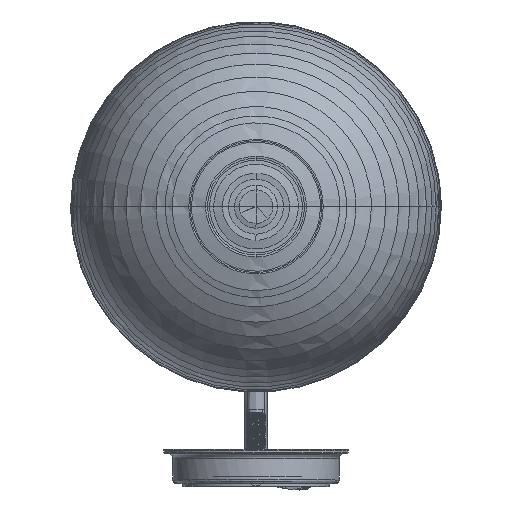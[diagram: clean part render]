
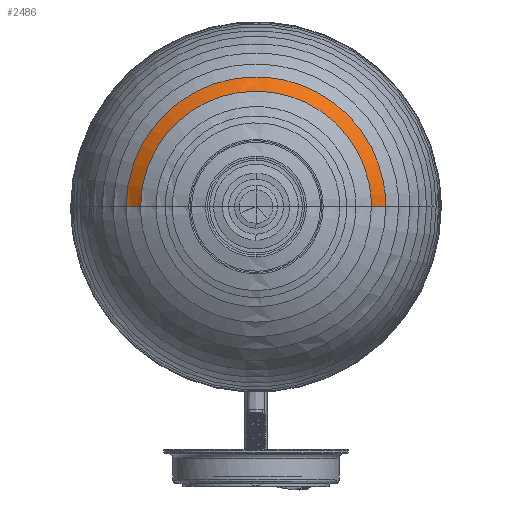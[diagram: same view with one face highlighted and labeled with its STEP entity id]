
A CAD part, top view. The second image highlights one B-rep face of the part: STEP entity #2486.
In plain terms, the highlighted free-form (B-spline) face has degree [2, 3] with [9, 7] control points.
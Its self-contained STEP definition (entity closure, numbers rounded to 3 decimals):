
#1564=B_SPLINE_CURVE_WITH_KNOTS('',3,(#64357,#64358,#64359,#64360,#64361),
 .UNSPECIFIED.,.F.,.F.,(4,1,4),(-1.,-0.503,0.),
 .UNSPECIFIED.);
#1565=B_SPLINE_CURVE_WITH_KNOTS('',3,(#64362,#64363,#64364,#64365,#64366),
 .UNSPECIFIED.,.F.,.F.,(4,1,4),(-1.,-0.497,0.),
 .UNSPECIFIED.);
#2486=ADVANCED_FACE('',(#3357),#13596,.T.);
#3357=FACE_OUTER_BOUND('',#4296,.T.);
#4296=EDGE_LOOP('',(#8458,#8459,#8460,#8461));
#8458=ORIENTED_EDGE('',*,*,#10694,.F.);
#8459=ORIENTED_EDGE('',*,*,#10696,.T.);
#8460=ORIENTED_EDGE('',*,*,#10695,.F.);
#8461=ORIENTED_EDGE('',*,*,#10691,.F.);
#10691=EDGE_CURVE('',#12852,#12853,#11508,.T.);
#10694=EDGE_CURVE('',#12854,#12852,#1564,.T.);
#10695=EDGE_CURVE('',#12853,#12855,#1565,.T.);
#10696=EDGE_CURVE('',#12854,#12855,#11511,.T.);
#11508=(
BOUNDED_CURVE()
B_SPLINE_CURVE(2,(#64342,#64343,#64344,#64345,#64346),.UNSPECIFIED.,.F.,
 .F.)
B_SPLINE_CURVE_WITH_KNOTS((3,2,3),(-220.643,-110.322,
0.),.UNSPECIFIED.)
CURVE()
GEOMETRIC_REPRESENTATION_ITEM()
RATIONAL_B_SPLINE_CURVE((1.,0.707,1.,0.707,1.))
REPRESENTATION_ITEM('')
);
#11511=(
BOUNDED_CURVE()
B_SPLINE_CURVE(2,(#64367,#64368,#64369,#64370,#64371),.UNSPECIFIED.,.F.,
 .F.)
B_SPLINE_CURVE_WITH_KNOTS((3,2,3),(-196.253,-98.127,
0.),.UNSPECIFIED.)
CURVE()
GEOMETRIC_REPRESENTATION_ITEM()
RATIONAL_B_SPLINE_CURVE((1.,0.707,1.,0.707,1.))
REPRESENTATION_ITEM('')
);
#12852=VERTEX_POINT('',#63756);
#12853=VERTEX_POINT('',#63757);
#12854=VERTEX_POINT('',#63758);
#12855=VERTEX_POINT('',#63759);
#13596=(
BOUNDED_SURFACE()
B_SPLINE_SURFACE(2,3,((#60963,#60964,#60965,#60966,#60967,#60968,#60969),
(#60970,#60971,#60972,#60973,#60974,#60975,#60976),(#60977,#60978,#60979,
#60980,#60981,#60982,#60983),(#60984,#60985,#60986,#60987,#60988,#60989,
#60990),(#60991,#60992,#60993,#60994,#60995,#60996,#60997),(#60998,#60999,
#61000,#61001,#61002,#61003,#61004),(#61005,#61006,#61007,#61008,#61009,
#61010,#61011),(#61012,#61013,#61014,#61015,#61016,#61017,#61018),(#61019,
#61020,#61021,#61022,#61023,#61024,#61025)),.UNSPECIFIED.,.T.,.F.,.F.)
B_SPLINE_SURFACE_WITH_KNOTS((3,2,2,2,3),(4,1,1,1,4),(0.,110.622,
221.244,331.866,442.487),(0.,0.208,
5.062,9.851,10.059),.UNSPECIFIED.)
GEOMETRIC_REPRESENTATION_ITEM()
RATIONAL_B_SPLINE_SURFACE(((1.,1.,1.,1.,1.,1.,1.),(0.707,0.707,
0.707,0.707,0.707,0.707,
0.707),(1.,1.,1.,1.,1.,1.,1.),(0.707,0.707,
0.707,0.707,0.707,0.707,
0.707),(1.,1.,1.,1.,1.,1.,1.),(0.707,0.707,
0.707,0.707,0.707,0.707,
0.707),(1.,1.,1.,1.,1.,1.,1.),(0.707,0.707,
0.707,0.707,0.707,0.707,
0.707),(1.,1.,1.,1.,1.,1.,1.)))
REPRESENTATION_ITEM('')
SURFACE()
);
#60963=CARTESIAN_POINT('',(1343.266,1439.987,70.424));
#60964=CARTESIAN_POINT('',(1343.266,1440.014,70.36));
#60965=CARTESIAN_POINT('',(1343.266,1440.68,68.813));
#60966=CARTESIAN_POINT('',(1343.266,1442.307,65.934));
#60967=CARTESIAN_POINT('',(1343.266,1444.525,63.483));
#60968=CARTESIAN_POINT('',(1343.266,1445.766,62.377));
#60969=CARTESIAN_POINT('',(1343.266,1445.818,62.331));
#60970=CARTESIAN_POINT('',(1413.69,1439.987,70.424));
#60971=CARTESIAN_POINT('',(1413.626,1440.014,70.36));
#60972=CARTESIAN_POINT('',(1412.079,1440.68,68.813));
#60973=CARTESIAN_POINT('',(1409.2,1442.307,65.934));
#60974=CARTESIAN_POINT('',(1406.749,1444.525,63.483));
#60975=CARTESIAN_POINT('',(1405.643,1445.766,62.377));
#60976=CARTESIAN_POINT('',(1405.597,1445.818,62.331));
#60977=CARTESIAN_POINT('',(1413.69,1439.987,0.));
#60978=CARTESIAN_POINT('',(1413.626,1440.014,0.));
#60979=CARTESIAN_POINT('',(1412.079,1440.68,0.));
#60980=CARTESIAN_POINT('',(1409.2,1442.307,0.));
#60981=CARTESIAN_POINT('',(1406.749,1444.525,0.));
#60982=CARTESIAN_POINT('',(1405.643,1445.766,0.));
#60983=CARTESIAN_POINT('',(1405.597,1445.818,0.));
#60984=CARTESIAN_POINT('',(1413.69,1439.987,-70.424));
#60985=CARTESIAN_POINT('',(1413.626,1440.014,-70.36));
#60986=CARTESIAN_POINT('',(1412.079,1440.68,-68.813));
#60987=CARTESIAN_POINT('',(1409.2,1442.307,-65.934));
#60988=CARTESIAN_POINT('',(1406.749,1444.525,-63.483));
#60989=CARTESIAN_POINT('',(1405.643,1445.766,-62.377));
#60990=CARTESIAN_POINT('',(1405.597,1445.818,-62.331));
#60991=CARTESIAN_POINT('',(1343.266,1439.987,-70.424));
#60992=CARTESIAN_POINT('',(1343.266,1440.014,-70.36));
#60993=CARTESIAN_POINT('',(1343.266,1440.68,-68.813));
#60994=CARTESIAN_POINT('',(1343.266,1442.307,-65.934));
#60995=CARTESIAN_POINT('',(1343.266,1444.525,-63.483));
#60996=CARTESIAN_POINT('',(1343.266,1445.766,-62.377));
#60997=CARTESIAN_POINT('',(1343.266,1445.818,-62.331));
#60998=CARTESIAN_POINT('',(1272.842,1439.987,-70.424));
#60999=CARTESIAN_POINT('',(1272.906,1440.014,-70.36));
#61000=CARTESIAN_POINT('',(1274.453,1440.68,-68.813));
#61001=CARTESIAN_POINT('',(1277.332,1442.307,-65.934));
#61002=CARTESIAN_POINT('',(1279.782,1444.525,-63.483));
#61003=CARTESIAN_POINT('',(1280.889,1445.766,-62.377));
#61004=CARTESIAN_POINT('',(1280.935,1445.818,-62.331));
#61005=CARTESIAN_POINT('',(1272.842,1439.987,0.));
#61006=CARTESIAN_POINT('',(1272.906,1440.014,0.));
#61007=CARTESIAN_POINT('',(1274.453,1440.68,0.));
#61008=CARTESIAN_POINT('',(1277.332,1442.307,0.));
#61009=CARTESIAN_POINT('',(1279.782,1444.525,0.));
#61010=CARTESIAN_POINT('',(1280.889,1445.766,0.));
#61011=CARTESIAN_POINT('',(1280.935,1445.818,0.));
#61012=CARTESIAN_POINT('',(1272.842,1439.987,70.424));
#61013=CARTESIAN_POINT('',(1272.906,1440.014,70.36));
#61014=CARTESIAN_POINT('',(1274.453,1440.68,68.813));
#61015=CARTESIAN_POINT('',(1277.332,1442.307,65.934));
#61016=CARTESIAN_POINT('',(1279.782,1444.525,63.483));
#61017=CARTESIAN_POINT('',(1280.889,1445.766,62.377));
#61018=CARTESIAN_POINT('',(1280.935,1445.818,62.331));
#61019=CARTESIAN_POINT('',(1343.266,1439.987,70.424));
#61020=CARTESIAN_POINT('',(1343.266,1440.014,70.36));
#61021=CARTESIAN_POINT('',(1343.266,1440.68,68.813));
#61022=CARTESIAN_POINT('',(1343.266,1442.307,65.934));
#61023=CARTESIAN_POINT('',(1343.266,1444.525,63.483));
#61024=CARTESIAN_POINT('',(1343.266,1445.766,62.377));
#61025=CARTESIAN_POINT('',(1343.266,1445.818,62.331));
#63756=CARTESIAN_POINT('',(1273.033,1440.069,0.));
#63757=CARTESIAN_POINT('',(1413.499,1440.069,0.));
#63758=CARTESIAN_POINT('',(1280.797,1445.662,0.));
#63759=CARTESIAN_POINT('',(1405.735,1445.662,0.));
#64342=CARTESIAN_POINT('',(1273.033,1440.069,0.));
#64343=CARTESIAN_POINT('',(1273.033,1440.069,-70.233));
#64344=CARTESIAN_POINT('',(1343.266,1440.069,-70.233));
#64345=CARTESIAN_POINT('',(1413.499,1440.069,-70.233));
#64346=CARTESIAN_POINT('',(1413.499,1440.069,0.));
#64357=CARTESIAN_POINT('',(1280.797,1445.662,0.));
#64358=CARTESIAN_POINT('',(1279.731,1444.478,0.));
#64359=CARTESIAN_POINT('',(1277.332,1442.307,0.));
#64360=CARTESIAN_POINT('',(1274.514,1440.714,0.));
#64361=CARTESIAN_POINT('',(1273.033,1440.069,0.));
#64362=CARTESIAN_POINT('',(1413.499,1440.069,0.));
#64363=CARTESIAN_POINT('',(1412.018,1440.714,0.));
#64364=CARTESIAN_POINT('',(1409.2,1442.307,0.));
#64365=CARTESIAN_POINT('',(1406.801,1444.478,0.));
#64366=CARTESIAN_POINT('',(1405.735,1445.662,0.));
#64367=CARTESIAN_POINT('',(1280.797,1445.662,0.));
#64368=CARTESIAN_POINT('',(1280.797,1445.662,-62.469));
#64369=CARTESIAN_POINT('',(1343.266,1445.662,-62.469));
#64370=CARTESIAN_POINT('',(1405.735,1445.662,-62.469));
#64371=CARTESIAN_POINT('',(1405.735,1445.662,0.));
